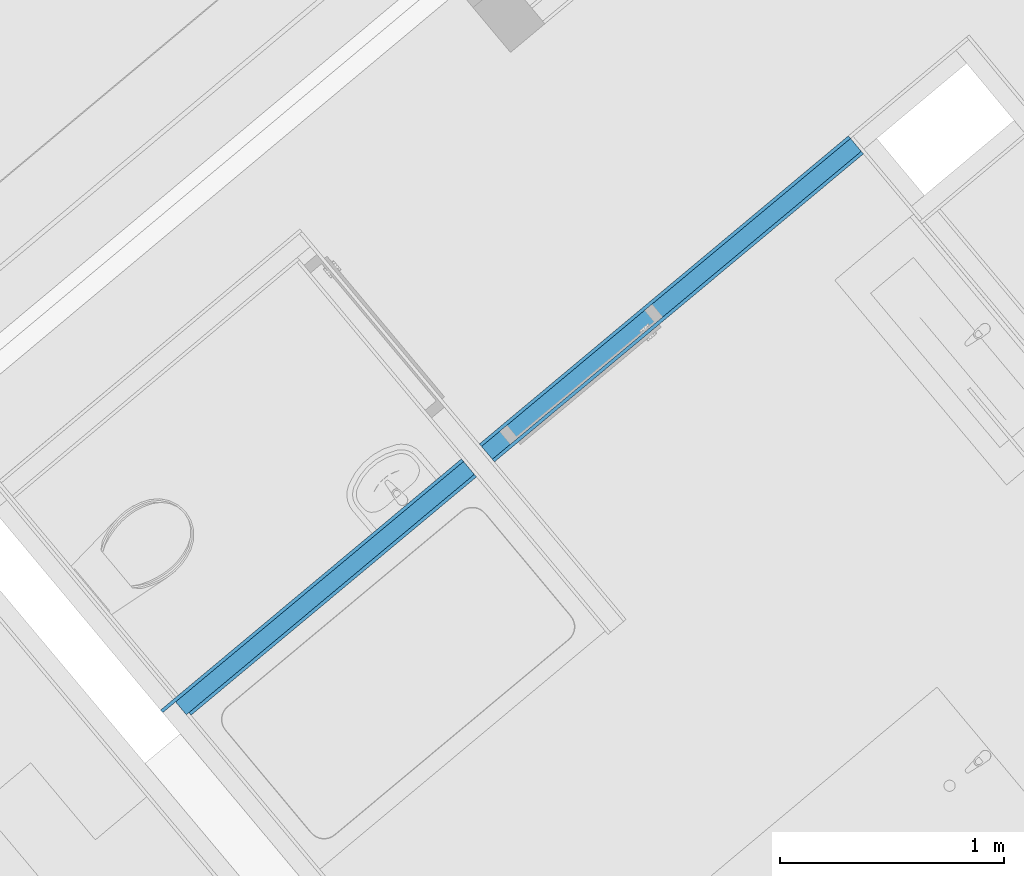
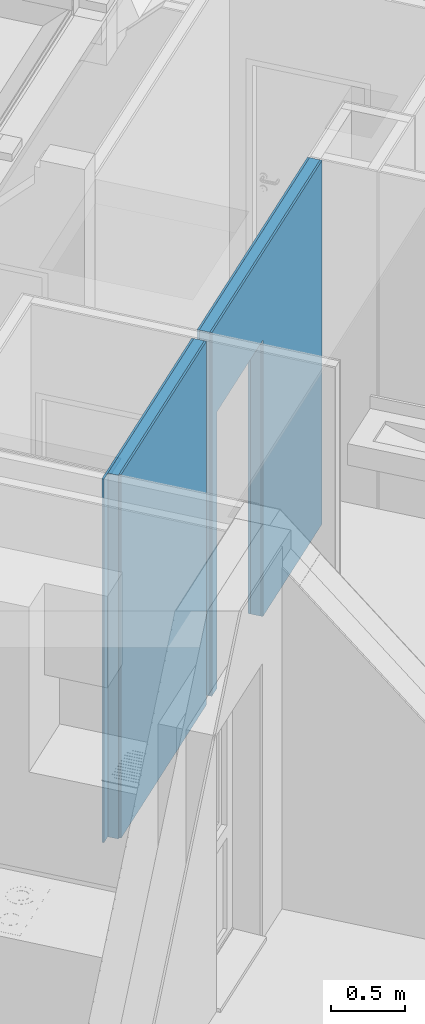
# One storey, part 8 of 50: 3 building element parts, 1 opening, 1 element without a shape of its own.
"""IFC4 building model written with IfcOpenShell, lengths in metres."""

from ifc_helpers import new_model, entity, si_unit, converted_unit, derived_unit, direction, frame, origin_with_axes, place, context, subcontext, project, spatial, polygons, material, type_object, element, aggregate, save


model = new_model("IFC4")

# Units and contexts
model_context = context("Model", 3, precision=1e-05, world=origin_with_axes(), true_north=direction((0.0, 1.0)))
body_context = subcontext(model_context, "Body", "Model", "MODEL_VIEW")
ifc_project = project(units=[si_unit("LENGTHUNIT", "METRE"), si_unit("AREAUNIT", "SQUARE_METRE"), si_unit("VOLUMEUNIT", "CUBIC_METRE"), converted_unit("PLANEANGLEUNIT", "DEGREE", entity("IfcPlaneAngleMeasure", 0.0174532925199), si_unit("PLANEANGLEUNIT", "RADIAN"), dimensions=[0, 0, 0, 0, 0, 0, 0]), converted_unit("TIMEUNIT", "Year", entity("IfcTimeMeasure", 31556926.0), si_unit("TIMEUNIT", "SECOND"), dimensions=[0, 0, 1, 0, 0, 0, 0]), si_unit("MASSUNIT", "GRAM", prefix="KILO"), si_unit("THERMODYNAMICTEMPERATUREUNIT", "DEGREE_CELSIUS"), si_unit("LUMINOUSINTENSITYUNIT", "LUMEN"), si_unit("ENERGYUNIT", "JOULE", prefix="MEGA"), derived_unit("THERMALCONDUCTANCEUNIT", [(si_unit("POWERUNIT", "WATT"), 1), (si_unit("LENGTHUNIT", "METRE"), -1), (si_unit("THERMODYNAMICTEMPERATUREUNIT", "KELVIN"), -1)]), derived_unit("SPECIFICHEATCAPACITYUNIT", [(si_unit("ENERGYUNIT", "JOULE"), 1), (si_unit("MASSUNIT", "GRAM", prefix="KILO"), -1), (si_unit("THERMODYNAMICTEMPERATUREUNIT", "KELVIN"), -1)]), derived_unit("MASSDENSITYUNIT", [(si_unit("MASSUNIT", "GRAM", prefix="KILO"), 1), (si_unit("VOLUMEUNIT", "CUBIC_METRE"), -1)])], contexts=[model_context])

# Site, building, storey
site_placement = place(None, frame((-0.00153261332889, -0.00661245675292, 0.0), z_axis=(0.0, 0.0, 1.0), x_axis=(1.0, 0.0, 0.0)))
site = spatial("IfcSite", under=ifc_project, at=site_placement, Name="Gelände", CompositionType="ELEMENT")
building_placement = place(site_placement, origin_with_axes())
building = spatial("IfcBuilding", under=site, at=building_placement, Name="Gebäude", CompositionType="ELEMENT")
storey_placement = place(building_placement, frame((0.0, 0.0, 8.66), z_axis=(0.0, 0.0, 1.0), x_axis=(1.0, 0.0, 0.0)))
storey = spatial("IfcBuildingStorey", under=building, at=storey_placement, Name="DG2", CompositionType="ELEMENT", Elevation=8.66)

# Wall, opening, building element parts
wall_type = type_object("IfcWallType", Name="IW LB 01 Leichtbautrennwand einfach 10,5 cm 105", PredefinedType="NOTDEFINED")
wall_placement = place(storey_placement, frame((2.09467668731, 18.9197573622, 0.0), z_axis=(0.0, 0.0, 1.0), x_axis=(0.76764928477, 0.640870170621, 0.0)))
wall = element("IfcWall", 1, at=wall_placement, inside=storey, type_object=wall_type, Name="Wand-012", PredefinedType="NOTDEFINED")
opening_placement = place(wall_placement, frame((2.31712158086, 0.0, 0.22), z_axis=(0.0, 0.0, 1.0), x_axis=(1.0, 0.0, 0.0)))
element("IfcOpeningElement", 2, at=opening_placement, cuts=wall, Name="Tür-020", context=body_context, identifier="Reference", shape_type="Tessellation", body=[
    polygons([(0.445, 2.07790048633, 2.045), (0.445, 2.07790048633, -0.22), (-0.445, 2.07790048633, -0.22), (-0.445, 2.07790048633, 2.045), (0.445, -1.97290048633, 2.045), (0.445, -1.97290048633, -0.22), (-0.445, -1.97290048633, -0.22), (-0.445, -1.97290048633, 2.045)], [[[1, 2, 3, 4]], [[5, 6, 2, 1]], [[6, 7, 3, 2]], [[7, 8, 4, 3]], [[8, 5, 1, 4]], [[7, 6, 5, 8]]], closed=True),
])
ifc_material_1 = material(Name="Gipskarton")
building_element_part_1_placement = place(wall_placement, origin_with_axes())
building_element_part_1 = element("IfcBuildingElementPart", 3, at=building_element_part_1_placement, material=ifc_material_1, Name="Gipskarton", PredefinedType="NOTDEFINED", context=body_context, shape_type="Tessellation", body=[
    polygons([(1.87212158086, 0.09, 0.22), (1.87212158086, 0.09, 2.265), (2.76212158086, 0.09, 2.265), (2.76212158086, 0.09, 0.22), (2.76212157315, 0.09, 0.0), (3.91818514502, 0.09, 0.0), (3.91818514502, 0.09, 2.98), (1.76811380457, 0.09, 2.98), (1.76811380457, 0.09, 0.0), (1.87212158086, 0.09, 0.0), (1.87212158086, 0.104999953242, 0.22), (1.87212158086, 0.104999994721, 2.265), (2.76212158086, 0.104999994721, 2.265), (2.76212158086, 0.104999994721, 0.22), (2.76212157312, 0.104999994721, 0.0), (3.91817851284, 0.105, 0.0), (3.91817851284, 0.105, 2.98), (1.76810699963, 0.105, 2.98), (1.76810699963, 0.105, 0.0), (1.87212158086, 0.104999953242, 0.0)], [[[1, 2, 3, 4, 5, 6, 7, 8, 9, 10]], [[2, 1, 11, 12]], [[3, 2, 12, 13]], [[4, 3, 13, 14]], [[4, 14, 15, 5]], [[15, 16, 6, 5]], [[16, 17, 7, 6]], [[17, 18, 8, 7]], [[19, 9, 8, 18]], [[10, 9, 19, 20]], [[11, 1, 10, 20]], [[12, 11, 20, 19, 18, 17, 16, 15, 14, 13]]], closed=True),
    polygons([(1.66311379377, 0.09, 0.0), (-0.0900398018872, 0.09, 0.0), (-0.0900464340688, 0.105, 0.0), (1.66310698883, 0.105, 0.0), (1.66311379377, 0.09, 2.98), (-0.0900398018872, 0.09, 2.98), (-0.0900464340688, 0.105, 2.98), (1.66310698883, 0.105, 2.98)], [[[1, 2, 3, 4]], [[5, 6, 2, 1]], [[3, 2, 6, 7]], [[4, 3, 7, 8]], [[4, 8, 5, 1]], [[8, 7, 6, 5]]], closed=True),
])
ifc_material_2 = material(Name="Mineralwolle weich")
building_element_part_2_placement = place(wall_placement, origin_with_axes())
building_element_part_2 = element("IfcBuildingElementPart", 4, at=building_element_part_2_placement, material=ifc_material_2, Name="Mineralwolle weich", PredefinedType="NOTDEFINED", context=body_context, shape_type="Tessellation", body=[
    polygons([(1.87212158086, 0.015, 0.22), (1.87212158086, 0.015, 2.265), (2.76212158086, 0.015, 2.265), (2.76212158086, 0.015, 0.22), (2.7621215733, 0.015, 0.0), (3.91821830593, 0.015, 0.0), (3.91821830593, 0.015, 2.98), (1.76814782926, 0.015, 2.98), (1.76814782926, 0.015, 0.0), (1.87212158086, 0.015, 0.0), (1.87212158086, 0.09, 0.22), (1.87212158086, 0.09, 2.265), (2.76212158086, 0.09, 2.265), (2.76212158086, 0.09, 0.22), (2.76212157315, 0.09, 0.0), (3.91818514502, 0.09, 0.0), (3.91818514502, 0.09, 2.98), (1.76811380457, 0.09, 2.98), (1.76811380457, 0.09, 0.0), (1.87212158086, 0.09, 0.0)], [[[1, 2, 3, 4, 5, 6, 7, 8, 9, 10]], [[2, 1, 11, 12]], [[3, 2, 12, 13]], [[4, 3, 13, 14]], [[4, 14, 15, 5]], [[15, 16, 6, 5]], [[16, 17, 7, 6]], [[17, 18, 8, 7]], [[19, 9, 8, 18]], [[10, 9, 19, 20]], [[11, 1, 10, 20]], [[12, 11, 20, 19, 18, 17, 16, 15, 14, 13]]], closed=True),
    polygons([(1.66314781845, 0.015, 0.0), (-0.0150066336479, 0.015, 0.0), (-0.0150397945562, 0.09, 0.0), (1.66311379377, 0.09, 0.0), (1.66314781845, 0.015, 2.98), (-0.0150066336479, 0.015, 2.98), (-0.0150397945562, 0.09, 2.98), (1.66311379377, 0.09, 2.98)], [[[1, 2, 3, 4]], [[5, 6, 2, 1]], [[3, 2, 6, 7]], [[4, 3, 7, 8]], [[4, 8, 5, 1]], [[8, 7, 6, 5]]], closed=True),
])
building_element_part_3_placement = place(wall_placement, origin_with_axes())
building_element_part_3 = element("IfcBuildingElementPart", 5, at=building_element_part_3_placement, material=ifc_material_1, Name="Gipskarton", PredefinedType="NOTDEFINED", context=body_context, shape_type="Tessellation", body=[
    polygons([(1.87212158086, 0.0, 0.22), (1.87212158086, 0.0, 2.265), (2.76212158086, 0.0, 2.265), (2.76212158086, 0.0, 0.22), (2.76212157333, 0.0, 0.0), (3.91822493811, 0.0, 0.0), (3.91822493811, 0.0, 2.98), (1.76815463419, 0.0, 2.98), (1.76815463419, 0.0, 0.0), (1.87212158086, 0.0, 0.0), (1.87212158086, 0.015, 0.22), (1.87212158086, 0.015, 2.265), (2.76212158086, 0.015, 2.265), (2.76212158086, 0.015, 0.22), (2.7621215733, 0.015, 0.0), (3.91821830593, 0.015, 0.0), (3.91821830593, 0.015, 2.98), (1.76814782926, 0.015, 2.98), (1.76814782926, 0.015, 0.0), (1.87212158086, 0.015, 0.0)], [[[1, 2, 3, 4, 5, 6, 7, 8, 9, 10]], [[2, 1, 11, 12]], [[3, 2, 12, 13]], [[4, 3, 13, 14]], [[4, 14, 15, 5]], [[15, 16, 6, 5]], [[16, 17, 7, 6]], [[17, 18, 8, 7]], [[19, 9, 8, 18]], [[10, 9, 19, 20]], [[11, 1, 10, 20]], [[12, 11, 20, 19, 18, 17, 16, 15, 14, 13]]], closed=True),
    polygons([(1.66315462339, 0.0, 0.0), (0.0, 0.0, 0.0), (-6.63218166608e-06, 0.015, 0.0), (1.66314781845, 0.015, 0.0), (1.66315462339, 0.0, 2.98), (0.0, 0.0, 2.98), (-6.63218166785e-06, 0.015, 2.98), (1.66314781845, 0.015, 2.98)], [[[1, 2, 3, 4]], [[5, 6, 2, 1]], [[3, 2, 6, 7]], [[4, 3, 7, 8]], [[4, 8, 5, 1]], [[8, 7, 6, 5]]], closed=True),
])
aggregate(wall, [building_element_part_1, building_element_part_2, building_element_part_3])

save(model, "model.ifc")
